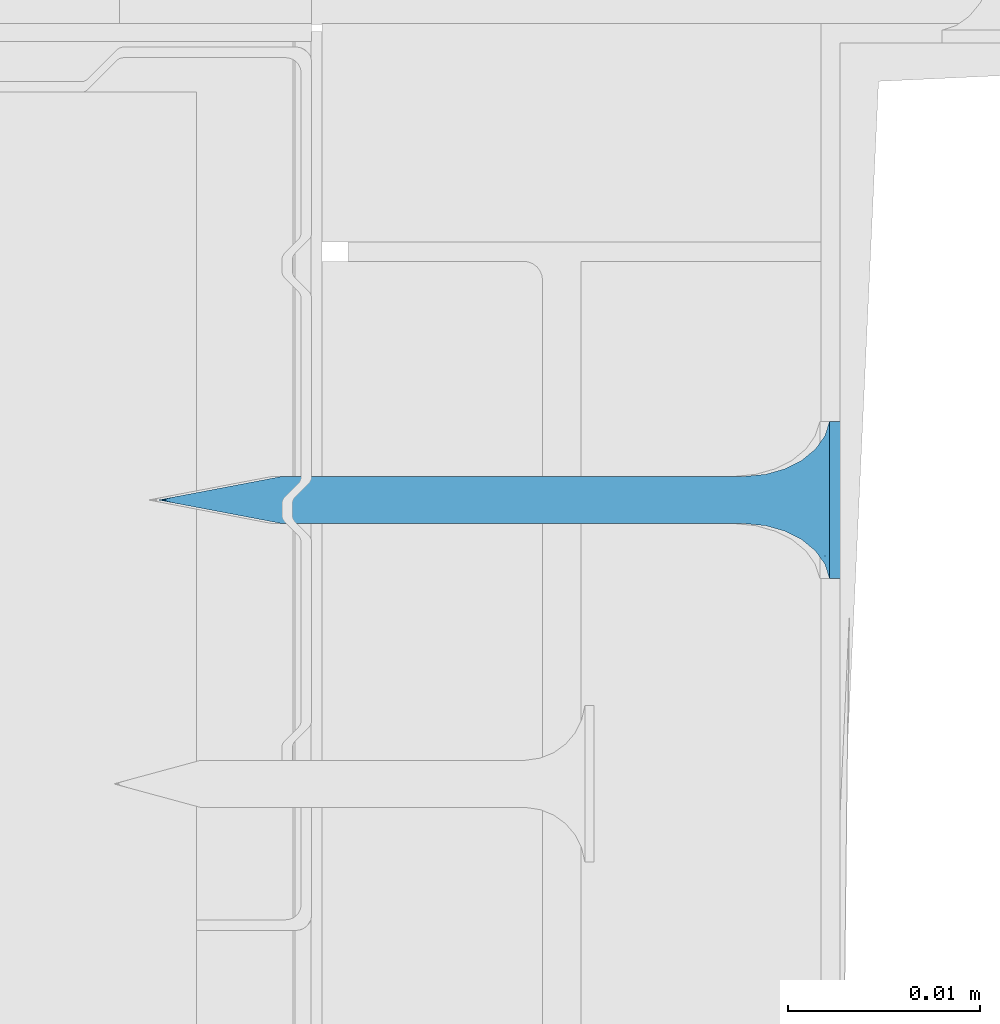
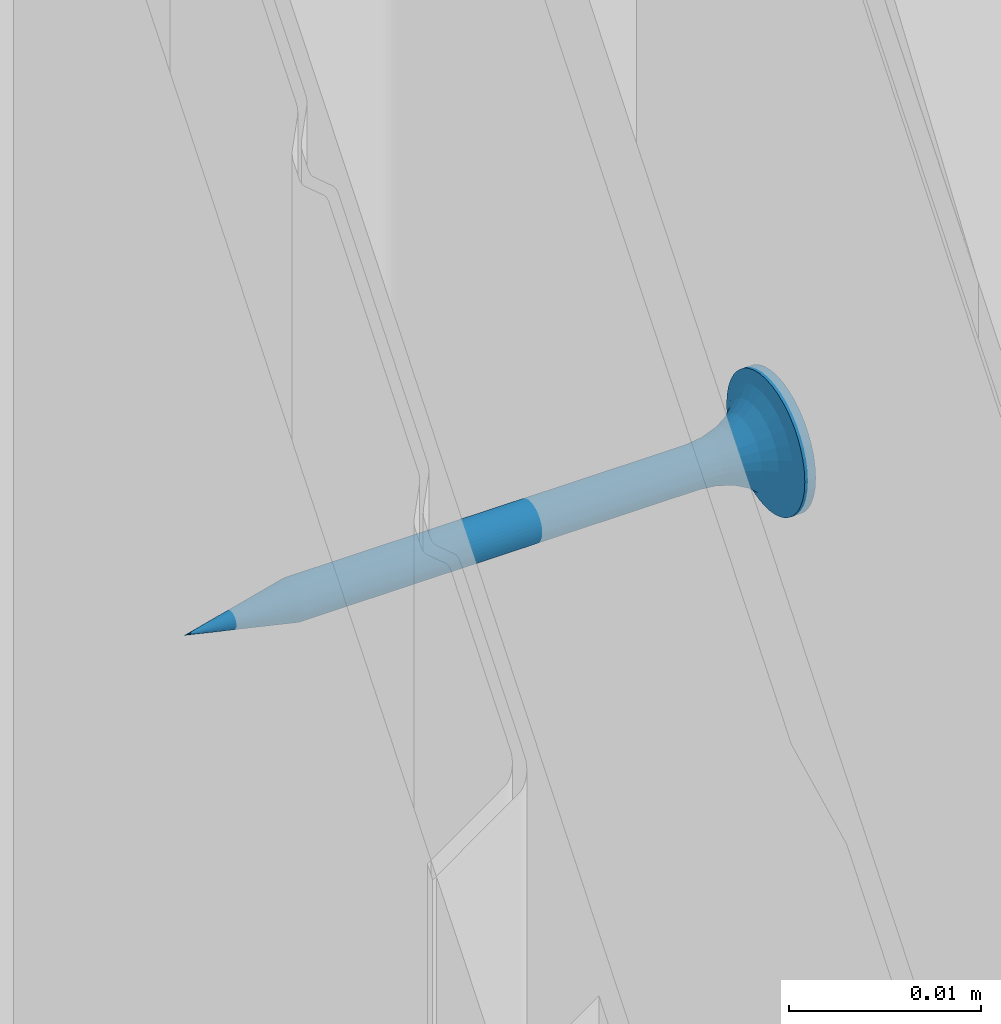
# One storey, part 64 of 95: 1 wall.
"""IFC2X3 building model written with IfcOpenShell, lengths in millimetres."""

from ifc_helpers import new_model, entity, si_unit, converted_unit, direction, frame, origin, origin_with_axes, place, context, project, spatial, faceted_brep, element, save


model = new_model("IFC2X3")

# Units and contexts
model_context = context("Model", 3, precision=1e-05, world=origin(), true_north=direction((0.0, 1.0, 0.0)))
ifc_project = project(units=[si_unit("LENGTHUNIT", "METRE", prefix="MILLI"), si_unit("AREAUNIT", "SQUARE_METRE"), si_unit("VOLUMEUNIT", "CUBIC_METRE"), converted_unit("PLANEANGLEUNIT", "DEGREE", entity("IfcPlaneAngleMeasure", 0.01745), si_unit("PLANEANGLEUNIT", "RADIAN"), dimensions=[0, 0, 0, 0, 0, 0, 0]), si_unit("SOLIDANGLEUNIT", "STERADIAN"), si_unit("MASSUNIT", "GRAM"), si_unit("TIMEUNIT", "SECOND"), si_unit("THERMODYNAMICTEMPERATUREUNIT", "DEGREE_CELSIUS"), si_unit("LUMINOUSINTENSITYUNIT", "LUMEN")], contexts=[model_context])

# Site, building, storey
site_placement = place(None, origin_with_axes())
site = spatial("IfcSite", under=ifc_project, at=site_placement, Name="Default Site", CompositionType="ELEMENT")
building_placement = place(site_placement, origin_with_axes())
building = spatial("IfcBuilding", under=site, at=building_placement, Name="Default Building", CompositionType="ELEMENT")
storey_placement = place(building_placement, origin_with_axes())
storey = spatial("IfcBuildingStorey", under=building, at=storey_placement, Name="Default Building Storey", CompositionType="ELEMENT", Elevation=0.0)

# Wall
wall_placement = place(storey_placement, frame((-1964.687898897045, 2134.794898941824, -74.90960477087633), z_axis=(0.0, 0.0, 1.0), x_axis=(3.748251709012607e-13, 1.0, 0.0)))
element("IfcWall", 1, at=wall_placement, inside=storey, Name="Wkręt RIGIPS TN 35", context=model_context, shape_type="Brep", body=[
    faceted_brep([(-138.5557071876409, -4828.206294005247, 555.2413100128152), (-138.5557071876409, -4804.093757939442, 555.2413100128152), (-138.6296059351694, -4804.093757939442, 555.4197173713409), (-138.6296059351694, -4828.206294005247, 555.4197173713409), (-138.329396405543, -4828.206294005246, 554.9298199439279), (-138.329396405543, -4804.093757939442, 554.9298199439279), (-138.4548091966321, -4804.093757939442, 555.0766594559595), (-138.4548091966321, -4828.206294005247, 555.0766594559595), (-137.0789337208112, -4828.206294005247, 556.9703895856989), (-137.0789337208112, -4804.093757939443, 556.9703895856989), (-136.9005263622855, -4804.093757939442, 556.8964908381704), (-136.9005263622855, -4828.206294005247, 556.8964908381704), (-138.6296059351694, -4804.093757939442, 556.1802826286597), (-138.6296059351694, -4828.206294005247, 556.1802826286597), (-138.6746858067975, -4828.206294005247, 555.9925114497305), (-138.6746858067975, -4804.093757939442, 555.9925114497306), (-138.0179063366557, -4828.206294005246, 554.7035091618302), (-138.0179063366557, -4804.093757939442, 554.7035091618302), (-138.1825568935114, -4804.093757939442, 554.8044071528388), (-138.1825568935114, -4828.206294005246, 554.8044071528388), (-137.83949897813, -4828.206294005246, 554.6296104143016), (-137.83949897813, -4804.093757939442, 554.6296104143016), (-137.4592163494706, -4804.093757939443, 554.5693795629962), (-137.4592163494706, -4828.206294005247, 554.5693795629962), (-137.2667048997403, -4828.206294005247, 554.5845305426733), (-137.2667048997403, -4804.093757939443, 554.5845305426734), (-136.9005263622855, -4804.093757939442, 554.7035091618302), (-136.9005263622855, -4828.206294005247, 554.7035091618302), (-136.7358758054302, -4828.206294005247, 554.8044071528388), (-136.7358758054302, -4804.093757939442, 554.8044071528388), (-138.0179063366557, -4828.206294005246, 556.8964908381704), (-138.0179063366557, -4804.093757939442, 556.8964908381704), (-137.83949897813, -4804.093757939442, 556.9703895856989), (-137.83949897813, -4828.206294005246, 556.9703895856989), (-136.3627255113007, -4828.206294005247, 556.3586899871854), (-136.3627255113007, -4804.093757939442, 556.3586899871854), (-136.2888267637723, -4804.093757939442, 556.1802826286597), (-136.2888267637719, -4828.206294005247, 556.1802826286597), (-138.329396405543, -4828.206294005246, 556.6701800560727), (-138.329396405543, -4804.093757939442, 556.6701800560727), (-138.1825568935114, -4804.093757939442, 556.7955928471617), (-138.1825568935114, -4828.206294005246, 556.7955928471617), (-138.6746858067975, -4804.093757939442, 555.60748855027), (-138.6746858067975, -4828.206294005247, 555.60748855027), (-137.2667048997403, -4828.206294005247, 557.0154694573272), (-137.2667048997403, -4804.093757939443, 557.0154694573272), (-136.2888267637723, -4804.093757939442, 555.4197173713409), (-136.2888267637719, -4828.206294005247, 555.4197173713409), (-136.2437468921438, -4828.206294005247, 555.60748855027), (-136.2437468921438, -4804.093757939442, 555.60748855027), (-136.5890362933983, -4828.206294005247, 554.9298199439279), (-136.5890362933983, -4804.093757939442, 554.9298199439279), (-137.651727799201, -4828.206294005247, 554.5845305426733), (-137.651727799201, -4804.093757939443, 554.5845305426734), (-136.4636235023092, -4828.206294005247, 555.0766594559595), (-136.4636235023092, -4804.093757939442, 555.0766594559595), (-136.7358758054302, -4804.093757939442, 556.7955928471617), (-136.7358758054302, -4828.206294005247, 556.7955928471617), (-136.3627255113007, -4804.093757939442, 555.2413100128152), (-136.3627255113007, -4828.206294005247, 555.2413100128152), (-136.2437468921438, -4828.206294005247, 555.9925114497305), (-136.2437468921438, -4804.093757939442, 555.9925114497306), (-136.2285959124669, -4804.093757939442, 555.8000000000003), (-136.2285959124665, -4828.206294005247, 555.8000000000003), (-138.6898367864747, -4828.206294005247, 555.8000000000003), (-138.6898367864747, -4804.093757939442, 555.8000000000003), (-136.5890362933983, -4828.206294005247, 556.6701800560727), (-136.5890362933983, -4804.093757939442, 556.6701800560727), (-136.4636235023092, -4804.093757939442, 556.5233405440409), (-136.4636235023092, -4828.206294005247, 556.5233405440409), (-137.0789337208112, -4804.093757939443, 554.6296104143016), (-137.0789337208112, -4828.206294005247, 554.6296104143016), (-137.4592163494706, -4804.093757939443, 557.0306204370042), (-137.4592163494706, -4828.206294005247, 557.0306204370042), (-137.651727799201, -4828.206294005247, 557.0154694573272), (-137.651727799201, -4804.093757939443, 557.0154694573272), (-138.5557071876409, -4804.093757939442, 556.3586899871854), (-138.5557071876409, -4828.206294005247, 556.3586899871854), (-138.4548091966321, -4828.206294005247, 556.5233405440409), (-138.4548091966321, -4804.093757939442, 556.5233405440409), (-141.5377463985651, -4832.598051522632, 555.8000000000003), (-141.5377463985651, -4833.259713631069, 555.8000000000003), (-141.4875329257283, -4833.259713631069, 555.1619773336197), (-141.4875329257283, -4832.598051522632, 555.1619773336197), (-141.3381289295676, -4833.259713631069, 554.5396649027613), (-141.3381289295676, -4832.598051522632, 554.5396649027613), (-141.0932132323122, -4833.259713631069, 553.9483861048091), (-141.0932132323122, -4832.598051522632, 553.9483861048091), (-140.7588164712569, -4833.259713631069, 553.4027001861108), (-140.7588164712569, -4832.598051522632, 553.4027001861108), (-140.3431726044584, -4833.259713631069, 552.9160437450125), (-140.4541727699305, -4832.598051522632, 553.0314907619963), (-140.1080097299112, -4832.598051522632, 552.6986614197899), (-139.8565161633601, -4833.259713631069, 552.500399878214), (-139.7251262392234, -4832.598051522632, 552.4088262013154), (-139.3108302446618, -4833.259713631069, 552.1660031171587), (-139.3108302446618, -4832.598051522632, 552.1660031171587), (-138.8708651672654, -4832.598051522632, 551.9735584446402), (-138.7195514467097, -4833.259713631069, 551.9210874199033), (-138.4113302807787, -4832.598051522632, 551.8341600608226), (-137.9385961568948, -4832.598051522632, 551.7497404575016), (-138.0972390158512, -4833.259713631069, 551.7716834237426), (-137.4592163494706, -4833.259713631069, 551.7214699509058), (-137.4592163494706, -4832.598051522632, 551.7214699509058), (-136.8211936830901, -4833.259713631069, 551.7716834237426), (-136.8211936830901, -4832.598051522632, 551.7716834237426), (-136.1988812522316, -4833.259713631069, 551.9210874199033), (-136.1988812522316, -4832.598051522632, 551.9210874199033), (-135.6076024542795, -4833.259713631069, 552.1660031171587), (-135.6076024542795, -4832.598051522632, 552.1660031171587), (-135.0619165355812, -4833.259713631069, 552.500399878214), (-135.0619165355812, -4832.598051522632, 552.500399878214), (-134.5752600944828, -4833.259713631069, 552.9160437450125), (-134.5752600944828, -4832.598051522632, 552.9160437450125), (-134.1596162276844, -4833.259713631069, 553.4027001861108), (-134.1596162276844, -4832.598051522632, 553.4027001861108), (-133.8252194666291, -4833.259713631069, 553.9483861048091), (-133.8252194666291, -4832.598051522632, 553.9483861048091), (-133.5803037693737, -4833.259713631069, 554.5396649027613), (-133.5803037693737, -4832.598051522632, 554.5396649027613), (-133.430899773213, -4833.259713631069, 556.4380226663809), (-133.430899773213, -4832.598051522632, 556.4380226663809), (-133.3806863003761, -4832.598051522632, 555.8000000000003), (-133.3806863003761, -4833.259713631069, 555.8000000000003), (-133.430899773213, -4832.598051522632, 555.1619773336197), (-133.430899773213, -4833.259713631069, 555.1619773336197), (-133.5803037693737, -4833.259713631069, 557.0603350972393), (-133.5803037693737, -4832.598051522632, 557.0603350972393), (-133.8252194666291, -4833.259713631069, 557.6516138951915), (-133.8252194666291, -4832.598051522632, 557.6516138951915), (-134.1596162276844, -4833.259713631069, 558.1972998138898), (-134.1596162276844, -4832.598051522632, 558.1972998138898), (-134.5752600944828, -4833.259713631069, 558.6839562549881), (-134.5752600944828, -4832.598051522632, 558.6839562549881), (-135.0619165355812, -4833.259713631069, 559.0996001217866), (-135.0619165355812, -4832.598051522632, 559.0996001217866), (-135.6076024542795, -4833.259713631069, 559.4339968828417), (-135.6076024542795, -4832.598051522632, 559.4339968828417), (-136.1988812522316, -4833.259713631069, 559.6789125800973), (-136.1988812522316, -4832.598051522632, 559.6789125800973), (-136.8211936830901, -4833.259713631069, 559.8283165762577), (-136.8211936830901, -4832.598051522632, 559.8283165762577), (-137.4592163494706, -4833.259713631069, 559.8785300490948), (-137.4592163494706, -4832.598051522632, 559.8785300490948), (-138.0972390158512, -4833.259713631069, 559.8283165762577), (-138.0972390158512, -4832.598051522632, 559.8283165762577), (-138.7195514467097, -4833.259713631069, 559.6789125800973), (-138.7195514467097, -4832.598051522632, 559.6789125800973), (-139.3108302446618, -4833.259713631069, 559.4339968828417), (-139.3108302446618, -4832.598051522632, 559.4339968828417), (-139.8565161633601, -4833.259713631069, 559.0996001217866), (-139.8565161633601, -4832.598051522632, 559.0996001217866), (-140.3431726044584, -4833.259713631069, 558.6839562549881), (-140.3431726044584, -4832.598051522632, 558.6839562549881), (-140.7588164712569, -4833.259713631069, 558.1972998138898), (-140.7588164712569, -4832.598051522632, 558.1972998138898), (-141.0932132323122, -4833.259713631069, 557.6516138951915), (-141.0932132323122, -4832.598051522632, 557.6516138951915), (-141.3381289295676, -4833.259713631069, 557.0603350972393), (-141.3381289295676, -4832.598051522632, 557.0603350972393), (-141.4875329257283, -4833.259713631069, 556.4380226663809), (-141.4875329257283, -4832.598051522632, 556.4380226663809), (-137.8060615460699, -4829.281368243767, 554.5055560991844), (-137.4592163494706, -4829.281368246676, 554.4598930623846), (-138.1292698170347, -4829.281368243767, 554.6394333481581), (-138.4068150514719, -4829.281368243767, 554.8524012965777), (-138.6197830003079, -4829.281368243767, 555.1299465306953), (-138.7536602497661, -4829.281368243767, 555.4531548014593), (-138.7993232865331, -4829.281368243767, 555.7999999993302), (-138.753660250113, -4829.281368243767, 556.1468451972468), (-138.6197830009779, -4829.281368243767, 556.4700534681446), (-138.4068150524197, -4829.281368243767, 556.7475987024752), (-138.1292698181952, -4829.281368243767, 556.9605666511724), (-137.8060615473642, -4829.281368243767, 557.0944439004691), (-137.4592163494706, -4829.281368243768, 557.1401069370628), (-137.112371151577, -4829.281368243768, 557.0944439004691), (-136.7891628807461, -4829.281368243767, 556.9605666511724), (-136.5116176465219, -4829.281368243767, 556.7475987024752), (-136.2986496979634, -4829.281368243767, 556.4700534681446), (-136.1647724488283, -4829.281368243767, 556.1468451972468), (-136.1191094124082, -4829.281368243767, 555.7999999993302), (-136.1647724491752, -4829.281368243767, 555.4531548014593), (-136.2986496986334, -4829.281368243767, 555.1299465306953), (-136.5116176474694, -4829.281368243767, 554.8524012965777), (-136.7891628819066, -4829.281368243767, 554.6394333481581), (-137.1123711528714, -4829.281368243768, 554.5055560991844), (-137.4592163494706, -4830.288222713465, 554.1737111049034), (-137.8801308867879, -4830.288222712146, 554.229125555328), (-138.2723607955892, -4830.288222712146, 554.3915925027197), (-138.6091762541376, -4830.288222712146, 554.6500400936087), (-138.8676238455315, -4830.288222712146, 554.9868555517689), (-139.0300907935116, -4830.288222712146, 555.3790854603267), (-139.0855052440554, -4830.288222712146, 555.7999999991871), (-139.0300907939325, -4830.288222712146, 556.220914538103), (-138.8676238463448, -4830.288222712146, 556.6131444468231), (-138.6091762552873, -4830.288222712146, 556.9499599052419), (-138.2723607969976, -4830.288222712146, 557.2084074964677), (-137.8801308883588, -4830.288222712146, 557.3708744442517), (-137.4592163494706, -4830.288222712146, 557.426288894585), (-137.0383018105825, -4830.288222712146, 557.3708744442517), (-136.6460719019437, -4830.288222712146, 557.2084074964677), (-136.309256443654, -4830.288222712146, 556.9499599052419), (-136.0508088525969, -4830.288222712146, 556.6131444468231), (-135.8883419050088, -4830.288222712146, 556.220914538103), (-135.8329274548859, -4830.288222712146, 555.7999999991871), (-135.8883419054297, -4830.288222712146, 555.3790854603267), (-136.0508088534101, -4830.288222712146, 554.9868555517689), (-136.309256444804, -4830.288222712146, 554.6500400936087), (-136.6460719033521, -4830.288222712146, 554.3915925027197), (-137.0383018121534, -4830.288222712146, 554.229125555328), (-137.4592163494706, -4831.168773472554, 553.7273431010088), (-137.9956594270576, -4831.168773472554, 553.7979671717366), (-138.4955447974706, -4831.168773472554, 554.0050264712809), (-138.9248060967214, -4831.168773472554, 554.3344102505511), (-139.2541898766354, -4831.168773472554, 554.763671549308), (-139.4612491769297, -4831.168773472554, 555.2635569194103), (-139.5318732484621, -4831.168773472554, 555.799999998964), (-139.461249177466, -4831.168773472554, 556.3364430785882), (-139.2541898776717, -4831.168773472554, 556.8363284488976), (-138.9248060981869, -4831.168773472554, 557.2655897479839), (-138.4955447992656, -4831.168773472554, 557.594973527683), (-137.9956594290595, -4831.168773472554, 557.8020328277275), (-137.4592163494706, -4831.168773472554, 557.8726568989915), (-136.9227732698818, -4831.168773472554, 557.8020328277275), (-136.4228878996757, -4831.168773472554, 557.594973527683), (-135.9936266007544, -4831.168773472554, 557.2655897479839), (-135.6642428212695, -4831.168773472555, 556.8363284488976), (-135.4571835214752, -4831.168773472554, 556.3364430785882), (-135.3865594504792, -4831.168773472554, 555.799999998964), (-135.4571835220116, -4831.168773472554, 555.2635569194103), (-135.6642428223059, -4831.168773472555, 554.763671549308), (-135.9936266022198, -4831.168773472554, 554.3344102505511), (-136.4228879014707, -4831.168773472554, 554.0050264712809), (-136.9227732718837, -4831.168773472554, 553.7979671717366), (-137.459216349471, -4831.872222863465, 553.1465393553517), (-138.1459824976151, -4831.872222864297, 553.2369538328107), (-138.7859466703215, -4831.872222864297, 553.5020356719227), (-139.3354963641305, -4831.872222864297, 553.9237199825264), (-139.7571806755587, -4831.872222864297, 554.4732696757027), (-140.0222625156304, -4831.872222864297, 555.1132338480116), (-140.1126769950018, -4831.872222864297, 555.7999999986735), (-140.0222625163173, -4831.872222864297, 556.4867661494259), (-139.7571806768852, -4831.872222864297, 557.1267303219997), (-139.3354963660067, -4831.872222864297, 557.6762800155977), (-138.7859466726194, -4831.872222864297, 558.097964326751), (-138.1459825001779, -4831.872222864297, 558.363046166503), (-137.459216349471, -4831.872222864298, 558.4534606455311), (-136.7724501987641, -4831.872222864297, 558.363046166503), (-136.1324860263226, -4831.872222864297, 558.097964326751), (-135.5829363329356, -4831.872222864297, 557.6762800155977), (-135.1612520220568, -4831.872222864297, 557.1267303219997), (-134.896170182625, -4831.872222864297, 556.4867661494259), (-134.8057557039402, -4831.872222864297, 555.7999999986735), (-134.8961701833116, -4831.872222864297, 555.1132338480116), (-135.1612520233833, -4831.872222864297, 554.4732696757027), (-135.5829363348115, -4831.872222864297, 553.9237199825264), (-136.1324860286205, -4831.872222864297, 553.5020356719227), (-136.7724502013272, -4831.872222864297, 553.2369538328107), (-137.4592163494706, -4832.357989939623, 552.4648055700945), (-138.3224281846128, -4832.357989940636, 552.578449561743), (-139.1268135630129, -4832.357989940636, 552.9116368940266), (-139.8175549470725, -4832.357989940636, 553.4416613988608), (-140.3475794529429, -4832.357989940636, 554.1324027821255), (-140.6807667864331, -4832.357989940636, 554.936788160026), (-140.7944107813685, -4832.357989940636, 555.7999999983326), (-140.6807667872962, -4832.357989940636, 556.663211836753), (-140.3475794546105, -4832.357989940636, 557.4675972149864), (-139.817554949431, -4832.357989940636, 558.1583385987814), (-139.1268135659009, -4832.357989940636, 558.6883631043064), (-138.3224281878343, -4832.357989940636, 559.0215504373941), (-137.4592163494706, -4832.357989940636, 559.1351944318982), (-136.5960045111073, -4832.357989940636, 559.0215504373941), (-135.7916191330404, -4832.357989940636, 558.6883631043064), (-135.1008777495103, -4832.357989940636, 558.1583385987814), (-134.5708532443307, -4832.357989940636, 557.4675972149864), (-134.2376659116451, -4832.357989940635, 556.663211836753), (-134.1240219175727, -4832.357989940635, 555.7999999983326), (-134.2376659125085, -4832.357989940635, 554.936788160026), (-134.5708532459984, -4832.357989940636, 554.1324027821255), (-135.1008777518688, -4832.357989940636, 553.4416613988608), (-135.7916191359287, -4832.357989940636, 552.9116368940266), (-136.5960045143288, -4832.357989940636, 552.578449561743), (-137.4592163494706, -4797.627063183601, 555.8000000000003), (-139.9592163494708, -4833.259713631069, 556.3000000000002), (-137.9592163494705, -4833.259713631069, 556.3000000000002), (-139.9592163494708, -4833.259713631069, 555.3000000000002), (-137.9592163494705, -4833.259713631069, 555.3000000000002), (-137.9592163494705, -4833.259713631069, 553.3000000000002), (-136.9592163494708, -4833.259713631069, 553.3000000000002), (-136.9592163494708, -4833.259713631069, 555.3000000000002), (-134.9592163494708, -4833.259713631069, 555.3000000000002), (-134.9592163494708, -4833.259713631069, 556.3000000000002), (-136.9592163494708, -4833.259713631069, 556.3000000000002), (-136.9592163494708, -4833.259713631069, 558.3000000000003), (-137.9592163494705, -4833.259713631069, 558.3000000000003), (-136.9592163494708, -4831.988379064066, 556.3000000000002), (-134.9592163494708, -4831.988379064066, 556.3000000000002), (-134.9592163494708, -4831.988379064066, 555.3000000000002), (-136.9592163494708, -4831.988379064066, 555.3000000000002), (-136.9592163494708, -4831.988379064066, 553.3000000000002), (-137.9592163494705, -4831.988379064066, 553.3000000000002), (-137.9592163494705, -4831.988379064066, 555.3000000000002), (-139.9592163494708, -4831.988379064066, 555.3000000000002), (-139.9592163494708, -4831.988379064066, 556.3000000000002), (-137.9592163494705, -4831.988379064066, 556.3000000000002), (-137.9592163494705, -4831.988379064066, 558.3000000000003), (-136.9592163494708, -4831.988379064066, 558.3000000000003)], [[[0, 1, 2, 3]], [[4, 5, 6, 7]], [[8, 9, 10, 11]], [[12, 13, 14, 15]], [[1, 0, 7, 6]], [[16, 17, 18, 19]], [[20, 21, 17, 16]], [[22, 23, 24, 25]], [[26, 27, 28, 29]], [[30, 31, 32, 33]], [[34, 35, 36, 37]], [[38, 39, 40, 41]], [[3, 2, 42, 43]], [[9, 8, 44, 45]], [[46, 47, 48, 49]], [[50, 51, 29, 28]], [[5, 4, 19, 18]], [[21, 20, 52, 53]], [[23, 22, 53, 52]], [[51, 50, 54, 55]], [[11, 10, 56, 57]], [[47, 46, 58, 59]], [[60, 61, 62, 63]], [[64, 65, 15, 14]], [[37, 36, 61, 60]], [[66, 67, 68, 69]], [[27, 26, 70, 71]], [[71, 70, 25, 24]], [[59, 58, 55, 54]], [[63, 62, 49, 48]], [[35, 34, 69, 68]], [[67, 66, 57, 56]], [[72, 73, 74, 75]], [[13, 12, 76, 77]], [[73, 72, 45, 44]], [[39, 38, 78, 79]], [[33, 32, 75, 74]], [[77, 76, 79, 78]], [[31, 30, 41, 40]], [[65, 64, 43, 42]], [[80, 81, 82, 83]], [[84, 85, 83, 82]], [[86, 87, 85, 84]], [[87, 86, 88, 89]], [[88, 90, 89]], [[90, 91, 89]], [[92, 91, 93]], [[91, 90, 93]], [[93, 94, 92]], [[93, 95, 94]], [[95, 96, 94]], [[97, 96, 98]], [[96, 95, 98]], [[98, 99, 97]], [[100, 99, 101]], [[99, 98, 101]], [[101, 102, 100]], [[102, 103, 100]], [[103, 102, 104, 105]], [[106, 107, 105, 104]], [[108, 109, 107, 106]], [[109, 108, 110, 111]], [[112, 113, 111, 110]], [[113, 112, 114, 115]], [[116, 117, 115, 114]], [[118, 119, 117, 116]], [[120, 121, 122, 123]], [[123, 122, 124, 125]], [[119, 118, 125, 124]], [[126, 127, 121, 120]], [[128, 129, 127, 126]], [[129, 128, 130, 131]], [[132, 133, 131, 130]], [[133, 132, 134, 135]], [[136, 137, 135, 134]], [[138, 139, 137, 136]], [[139, 138, 140, 141]], [[142, 143, 141, 140]], [[143, 142, 144, 145]], [[146, 147, 145, 144]], [[148, 149, 147, 146]], [[149, 148, 150, 151]], [[152, 153, 151, 150]], [[153, 152, 154, 155]], [[156, 157, 155, 154]], [[158, 159, 157, 156]], [[159, 158, 160, 161]], [[81, 80, 161, 160]], [[162, 23, 52]], [[162, 163, 23]], [[52, 20, 162]], [[162, 20, 164]], [[16, 164, 20]], [[164, 16, 19]], [[19, 165, 164]], [[19, 4, 165]], [[166, 4, 7]], [[166, 165, 4]], [[7, 0, 166]], [[166, 0, 167]], [[3, 167, 0]], [[167, 3, 43]], [[43, 168, 167]], [[43, 64, 168]], [[169, 64, 14]], [[169, 168, 64]], [[14, 13, 169]], [[169, 13, 170]], [[77, 170, 13]], [[170, 77, 78]], [[78, 171, 170]], [[78, 38, 171]], [[172, 38, 41]], [[172, 171, 38]], [[41, 30, 172]], [[172, 30, 173]], [[33, 173, 30]], [[173, 33, 74]], [[74, 174, 173]], [[74, 73, 174]], [[175, 73, 44]], [[175, 174, 73]], [[44, 8, 175]], [[175, 8, 176]], [[11, 176, 8]], [[176, 11, 57]], [[57, 177, 176]], [[57, 66, 177]], [[178, 66, 69]], [[178, 177, 66]], [[69, 34, 178]], [[178, 34, 179]], [[37, 179, 34]], [[179, 37, 60]], [[60, 180, 179]], [[60, 63, 180]], [[181, 63, 48]], [[181, 180, 63]], [[48, 47, 181]], [[181, 47, 182]], [[59, 182, 47]], [[182, 59, 54]], [[54, 183, 182]], [[54, 50, 183]], [[184, 50, 28]], [[184, 183, 50]], [[28, 27, 184]], [[184, 27, 185]], [[71, 185, 27]], [[185, 71, 24]], [[24, 163, 185]], [[24, 23, 163]], [[186, 163, 187]], [[162, 187, 163]], [[164, 188, 187, 162]], [[165, 189, 188, 164]], [[166, 190, 189, 165]], [[167, 191, 190, 166]], [[168, 192, 191, 167]], [[169, 193, 192, 168]], [[170, 194, 193, 169]], [[171, 195, 194, 170]], [[172, 196, 195, 171]], [[173, 197, 196, 172]], [[174, 198, 197, 173]], [[175, 199, 198, 174]], [[176, 200, 199, 175]], [[177, 201, 200, 176]], [[178, 202, 201, 177]], [[179, 203, 202, 178]], [[180, 204, 203, 179]], [[181, 205, 204, 180]], [[182, 206, 205, 181]], [[183, 207, 206, 182]], [[184, 208, 207, 183]], [[185, 209, 208, 184]], [[185, 163, 209]], [[186, 209, 163]], [[210, 186, 211]], [[187, 211, 186]], [[188, 212, 211, 187]], [[189, 213, 212, 188]], [[190, 214, 213, 189]], [[191, 215, 214, 190]], [[192, 216, 215, 191]], [[193, 217, 216, 192]], [[194, 218, 217, 193]], [[195, 219, 218, 194]], [[196, 220, 219, 195]], [[197, 221, 220, 196]], [[198, 222, 221, 197]], [[199, 223, 222, 198]], [[200, 224, 223, 199]], [[201, 225, 224, 200]], [[202, 226, 225, 201]], [[203, 227, 226, 202]], [[204, 228, 227, 203]], [[205, 229, 228, 204]], [[206, 230, 229, 205]], [[207, 231, 230, 206]], [[208, 232, 231, 207]], [[209, 233, 232, 208]], [[209, 186, 233]], [[210, 233, 186]], [[234, 210, 235]], [[211, 235, 210]], [[212, 236, 235, 211]], [[213, 237, 236, 212]], [[214, 238, 237, 213]], [[215, 239, 238, 214]], [[216, 240, 239, 215]], [[217, 241, 240, 216]], [[218, 242, 241, 217]], [[219, 243, 242, 218]], [[220, 244, 243, 219]], [[221, 245, 244, 220]], [[222, 246, 245, 221]], [[223, 247, 246, 222]], [[224, 248, 247, 223]], [[225, 249, 248, 224]], [[226, 250, 249, 225]], [[227, 251, 250, 226]], [[228, 252, 251, 227]], [[229, 253, 252, 228]], [[230, 254, 253, 229]], [[231, 255, 254, 230]], [[232, 256, 255, 231]], [[233, 257, 256, 232]], [[233, 210, 257]], [[234, 257, 210]], [[258, 99, 100]], [[258, 259, 99]], [[100, 103, 258]], [[258, 234, 259]], [[235, 259, 234]], [[259, 96, 97]], [[259, 260, 96]], [[97, 99, 259]], [[236, 260, 259, 235]], [[261, 91, 92]], [[260, 92, 94]], [[260, 261, 92]], [[94, 96, 260]], [[237, 261, 260, 236]], [[262, 87, 89]], [[89, 261, 262]], [[89, 91, 261]], [[238, 262, 261, 237]], [[85, 87, 263]], [[262, 263, 87]], [[239, 263, 262, 238]], [[263, 80, 83]], [[263, 264, 80]], [[83, 85, 263]], [[240, 264, 263, 239]], [[265, 159, 161]], [[161, 264, 265]], [[161, 80, 264]], [[241, 265, 264, 240]], [[265, 266, 157, 159]], [[242, 266, 265, 241]], [[266, 153, 155]], [[266, 267, 153]], [[155, 157, 266]], [[243, 267, 266, 242]], [[268, 149, 151]], [[151, 267, 268]], [[151, 153, 267]], [[244, 268, 267, 243]], [[268, 269, 147, 149]], [[245, 269, 268, 244]], [[269, 143, 145]], [[269, 270, 143]], [[145, 147, 269]], [[246, 270, 269, 245]], [[271, 139, 141]], [[141, 270, 271]], [[141, 143, 270]], [[247, 271, 270, 246]], [[271, 272, 137, 139]], [[248, 272, 271, 247]], [[272, 133, 135]], [[272, 273, 133]], [[135, 137, 272]], [[249, 273, 272, 248]], [[274, 129, 131]], [[131, 273, 274]], [[131, 133, 273]], [[250, 274, 273, 249]], [[274, 275, 127, 129]], [[251, 275, 274, 250]], [[275, 122, 121]], [[275, 276, 122]], [[121, 127, 275]], [[252, 276, 275, 251]], [[277, 119, 124]], [[124, 276, 277]], [[124, 122, 276]], [[253, 277, 276, 252]], [[117, 119, 278]], [[277, 278, 119]], [[254, 278, 277, 253]], [[278, 113, 115]], [[278, 279, 113]], [[115, 117, 278]], [[255, 279, 278, 254]], [[280, 109, 111]], [[111, 279, 280]], [[111, 113, 279]], [[256, 280, 279, 255]], [[107, 109, 281]], [[280, 281, 109]], [[257, 281, 280, 256]], [[257, 234, 281]], [[258, 281, 234]], [[281, 103, 105]], [[281, 258, 103]], [[105, 107, 281]], [[42, 2, 282]], [[282, 65, 42]], [[2, 1, 282]], [[6, 5, 282]], [[282, 1, 6]], [[18, 17, 282]], [[282, 5, 18]], [[17, 21, 282]], [[53, 22, 282]], [[282, 21, 53]], [[25, 70, 282]], [[282, 22, 25]], [[70, 26, 282]], [[29, 51, 282]], [[282, 26, 29]], [[55, 58, 282]], [[282, 51, 55]], [[58, 46, 282]], [[49, 62, 282]], [[282, 46, 49]], [[61, 36, 282]], [[282, 62, 61]], [[36, 35, 282]], [[68, 67, 282]], [[282, 35, 68]], [[56, 10, 282]], [[282, 67, 56]], [[10, 9, 282]], [[45, 72, 282]], [[282, 9, 45]], [[75, 32, 282]], [[282, 72, 75]], [[32, 31, 282]], [[40, 39, 282]], [[282, 31, 40]], [[79, 76, 282]], [[282, 39, 79]], [[76, 12, 282]], [[15, 65, 282]], [[282, 12, 15]], [[283, 156, 154, 284]], [[283, 285, 286, 287, 288, 289, 290, 291, 292, 293, 294, 284, 154, 152, 150, 148, 146, 144, 142, 140, 138, 136, 134, 132, 130, 128, 126, 120, 123, 125, 118, 116, 114, 112, 110, 108, 106, 104, 102, 101, 98, 95, 93, 90, 88, 86, 84, 82, 81, 160, 158, 156]], [[295, 296, 297, 298, 299, 300, 301, 302, 303, 304, 305, 306]], [[297, 290, 289, 298]], [[296, 291, 290, 297]], [[295, 292, 291, 296]], [[306, 293, 292, 295]], [[305, 294, 293, 306]], [[304, 284, 294, 305]], [[303, 283, 284, 304]], [[302, 285, 283, 303]], [[301, 286, 285, 302]], [[300, 287, 286, 301]], [[299, 288, 287, 300]], [[298, 289, 288, 299]]]),
])

save(model, "model.ifc")
